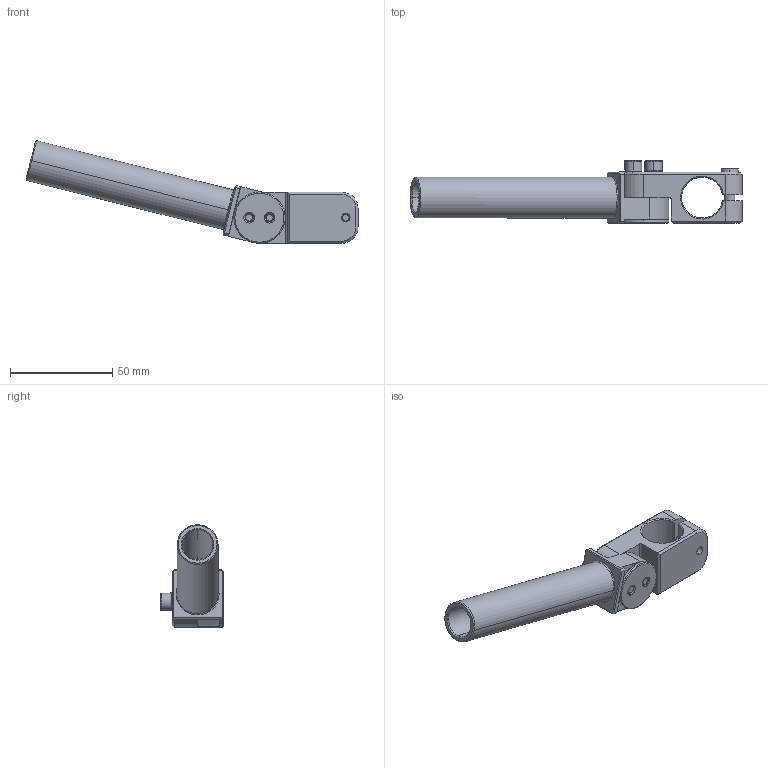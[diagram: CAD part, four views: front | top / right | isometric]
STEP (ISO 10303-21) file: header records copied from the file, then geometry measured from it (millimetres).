
FILE_DESCRIPTION (( 'STEP AP214' ), '1' );
FILE_NAME ('SEAH-2020L100.STEP', '2019-11-11T03:32:52', ( '微软用户' ), ( '微软中国' ), 'SwSTEP 2.0', 'SolidWorks 2016', '' );
FILE_SCHEMA (( 'AUTOMOTIVE_DESIGN' ));
Length unit declared in the file: millimetre
Products named in the file (1): SEAH-2020L100
Bounding box: 162.35 x 30.5 x 50.13 mm (x, y, z)
Volume: 43413.1 mm3; surface area: 25520 mm2
Topology: 8 solids, 8 shells, 568 faces, 1576 edges, 1027 vertices
Faces by surface type: plane 457, cylinder 56, cone 45, bspline 10
Entity records: 25494 total; most frequent: CARTESIAN_POINT 4186, DIRECTION 3205, ORIENTED_EDGE 3148, EDGE_CURVE 1574, AXIS2_PLACEMENT_3D 1097, VERTEX_POINT 1027, LINE 1011, VECTOR 1011
